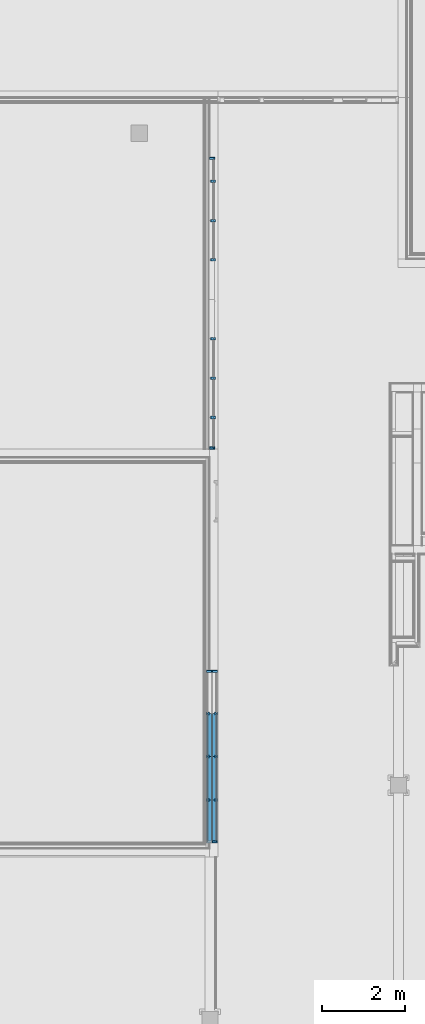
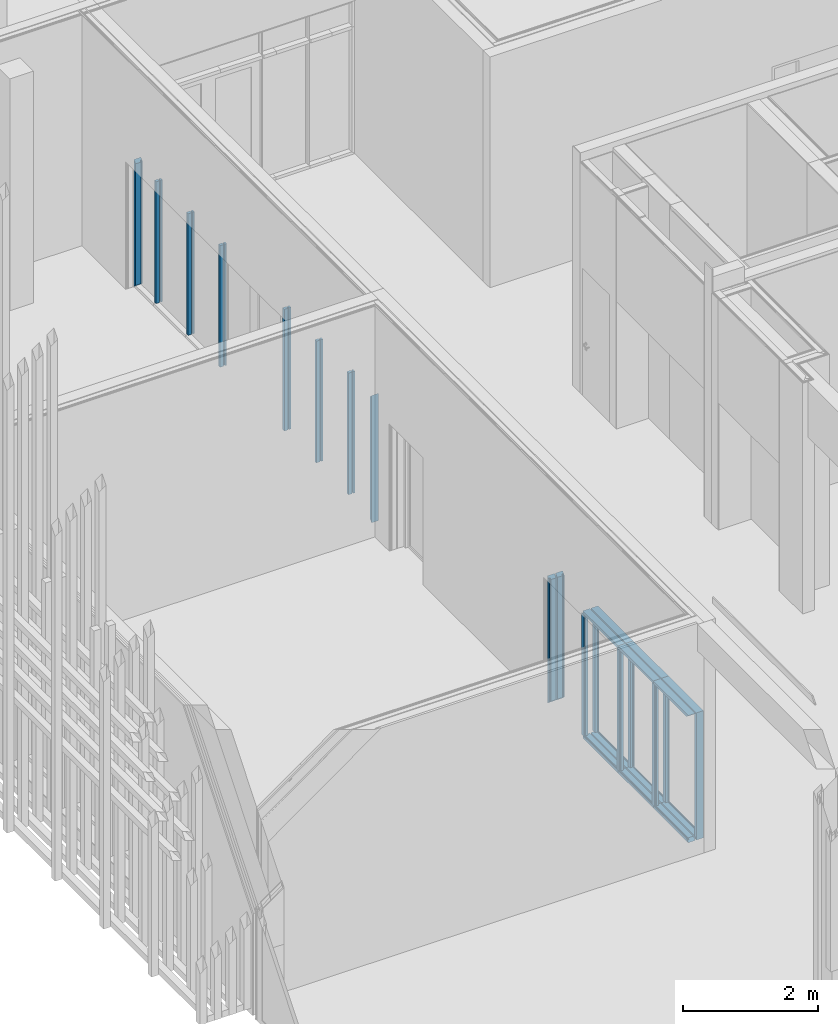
# One storey, part 28 of 260: 29 members, 3 elements without a shape of their own.
"""IFC2X3 building model written with IfcOpenShell, lengths in millimetres."""

from ifc_helpers import new_model, entity, si_unit, converted_unit, derived_unit, money_unit, direction, frame, origin_with_axes, place, context, subcontext, project, spatial, faceted_brep, source, transform, mapped, material, type_object, element, aggregate, save


model = new_model("IFC2X3")

# Units and contexts
model_context = context("Model", 3, precision=0.01, world=origin_with_axes(), true_north=direction((0.0, 1.0)))
body_context = subcontext(model_context, "Body", "Model", "MODEL_VIEW")
ifc_project = project(units=[si_unit("LENGTHUNIT", "METRE", prefix="MILLI"), si_unit("AREAUNIT", "SQUARE_METRE"), si_unit("VOLUMEUNIT", "CUBIC_METRE"), converted_unit("PLANEANGLEUNIT", "DEGREE", entity("IfcPlaneAngleMeasure", 0.0174532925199), si_unit("PLANEANGLEUNIT", "RADIAN"), dimensions=[0, 0, 0, 0, 0, 0, 0]), money_unit("EUR"), converted_unit("TIMEUNIT", "Year", entity("IfcTimeMeasure", 31556926.0), si_unit("TIMEUNIT", "SECOND"), dimensions=[0, 0, 1, 0, 0, 0, 0]), si_unit("MASSUNIT", "GRAM", prefix="KILO"), si_unit("THERMODYNAMICTEMPERATUREUNIT", "DEGREE_CELSIUS"), si_unit("LUMINOUSINTENSITYUNIT", "LUMEN"), si_unit("ENERGYUNIT", "JOULE", prefix="MEGA"), derived_unit("THERMALCONDUCTANCEUNIT", [(si_unit("POWERUNIT", "WATT"), 1), (si_unit("LENGTHUNIT", "METRE"), -1), (si_unit("THERMODYNAMICTEMPERATUREUNIT", "KELVIN"), -1)]), derived_unit("SPECIFICHEATCAPACITYUNIT", [(si_unit("ENERGYUNIT", "JOULE"), 1), (si_unit("MASSUNIT", "GRAM", prefix="KILO"), -1), (si_unit("THERMODYNAMICTEMPERATUREUNIT", "KELVIN"), -1)]), derived_unit("MASSDENSITYUNIT", [(si_unit("MASSUNIT", "GRAM", prefix="KILO"), 1), (si_unit("VOLUMEUNIT", "CUBIC_METRE"), -1)])], contexts=[model_context])

# Site, building, storey
site_placement = place(None, origin_with_axes())
site = spatial("IfcSite", under=ifc_project, at=site_placement, Name="Kolde pst 67a", CompositionType="ELEMENT")
building_placement = place(site_placement, origin_with_axes())
building = spatial("IfcBuilding", under=site, at=building_placement, Name="Riigigümnaasium", CompositionType="ELEMENT")
storey_placement = place(building_placement, origin_with_axes())
storey = spatial("IfcBuildingStorey", under=building, at=storey_placement, Name="1. korrus", CompositionType="ELEMENT", Elevation=0.0)

# Curtain wall, members
curtain_wall_type = type_object("IfcCurtainWallType", Name="Curtain Wall Type", PredefinedType="NOTDEFINED")
curtain_wall_1_placement = place(storey_placement, frame((31790.0027795, 49434.9164747, -6.11802017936e-05), z_axis=(0.0, 0.0, 1.0), x_axis=(1.0, 0.0, 0.0)))
curtain_wall_1 = element("IfcCurtainWall", 1, at=curtain_wall_1_placement, inside=storey, type_object=curtain_wall_type, Name="KLAASSEIN")
ifc_material_1 = material(Name="_GENEERILINE MATERJAL")
member_type_1 = type_object("IfcMemberType", Name="Mullion Frame 50 x 110", PredefinedType="MEMBER")
shared_shape_1 = source(origin_with_axes(), body_context, "Body", "Brep", [
    faceted_brep([(-5.0, -10.0, 2250.00010133), (-25.0, -10.0, 2250.00010133), (-25.0, -70.0, 2250.00010133), (25.0, -70.0, 2250.00010133), (25.0, -10.0, 2250.00010133), (5.0, -10.0, 2250.00010133), (5.0, 10.0, 2250.00010133), (25.0, 10.0, 2250.00010133), (25.0, 40.0, 2250.00010133), (-25.0, 40.0, 2250.00010133), (-25.0, 10.0, 2250.00010133), (-5.0, 10.0, 2250.00010133), (-5.0, -10.0, 50.0), (-25.0, -10.0, 50.0), (-25.0, -70.0, 50.0), (25.0, -70.0, 50.0), (25.0, -10.0, 50.0), (5.0, -10.0, 50.0), (5.0, 10.0, 50.0), (25.0, 10.0, 50.0), (25.0, 40.0, 50.0), (-25.0, 40.0, 50.0), (-25.0, 10.0, 50.0), (-5.0, 10.0, 50.0)], [[[0, 1, 2, 3, 4, 5, 6, 7, 8, 9, 10, 11]], [[1, 0, 12, 13]], [[1, 13, 14, 2]], [[2, 14, 15, 3]], [[4, 3, 15, 16]], [[4, 16, 17, 5]], [[5, 17, 18, 6]], [[7, 6, 18, 19]], [[19, 20, 8, 7]], [[8, 20, 21, 9]], [[22, 10, 9, 21]], [[11, 10, 22, 23]], [[0, 11, 23, 12]], [[23, 22, 21, 20, 19, 18, 17, 16, 15, 14, 13, 12]]]),
])
member_1_placement = place(curtain_wall_1_placement, frame((0.0, -475.0, 1.68701678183e-05), z_axis=(0.0, 0.0, 1.0), x_axis=(0.0, -1.0, 0.0)))
member_1 = element("IfcMember", 2, at=member_1_placement, type_object=member_type_1, material=ifc_material_1, Name="RF RAAM VERT-288", ObjectType="MEMBER", context=body_context, shape_type="MappedRepresentation", body=[
    mapped(shared_shape_1, transform((0.0, 0.0, 0.0))),
])
member_2_placement = place(curtain_wall_1_placement, frame((0.0, 475.0, 1.68701678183e-05), z_axis=(0.0, 0.0, 1.0), x_axis=(0.0, -1.0, 0.0)))
member_2 = element("IfcMember", 3, at=member_2_placement, type_object=member_type_1, material=ifc_material_1, Name="RF RAAM VERT-289", ObjectType="MEMBER", context=body_context, shape_type="MappedRepresentation", body=[
    mapped(shared_shape_1, transform((0.0, 0.0, 0.0))),
])
member_3_placement = place(curtain_wall_1_placement, frame((0.0, 1425.0, 1.68701678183e-05), z_axis=(0.0, 0.0, 1.0), x_axis=(0.0, -1.0, 0.0)))
member_3 = element("IfcMember", 4, at=member_3_placement, type_object=member_type_1, material=ifc_material_1, Name="RF RAAM VERT-290", ObjectType="MEMBER", context=body_context, shape_type="MappedRepresentation", body=[
    mapped(shared_shape_1, transform((0.0, 0.0, 0.0))),
])
member_4_placement = place(curtain_wall_1_placement, frame((0.0, 3325.0, 1.68701678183e-05), z_axis=(0.0, 0.0, 1.0), x_axis=(0.0, -1.0, 0.0)))
member_4 = element("IfcMember", 5, at=member_4_placement, type_object=member_type_1, material=ifc_material_1, Name="RF RAAM VERT-292", ObjectType="MEMBER", context=body_context, shape_type="MappedRepresentation", body=[
    mapped(shared_shape_1, transform((0.0, 0.0, 0.0))),
])
member_5_placement = place(curtain_wall_1_placement, frame((0.0, 4275.0, 1.68701678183e-05), z_axis=(0.0, 0.0, 1.0), x_axis=(0.0, -1.0, 0.0)))
member_5 = element("IfcMember", 6, at=member_5_placement, type_object=member_type_1, material=ifc_material_1, Name="RF RAAM VERT-293", ObjectType="MEMBER", context=body_context, shape_type="MappedRepresentation", body=[
    mapped(shared_shape_1, transform((0.0, 0.0, 0.0))),
])
member_6_placement = place(curtain_wall_1_placement, frame((0.0, 5225.0, 1.68701678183e-05), z_axis=(0.0, 0.0, 1.0), x_axis=(0.0, -1.0, 0.0)))
member_6 = element("IfcMember", 7, at=member_6_placement, type_object=member_type_1, material=ifc_material_1, Name="RF RAAM VERT-294", ObjectType="MEMBER", context=body_context, shape_type="MappedRepresentation", body=[
    mapped(shared_shape_1, transform((0.0, 0.0, 0.0))),
])
member_type_2 = type_object("IfcMemberType", Name="Boundary Frame 50 x 120", PredefinedType="MEMBER")
shared_shape_2 = source(origin_with_axes(), body_context, "Body", "Brep", [
    faceted_brep([(30.0, -10.0, 2270.00010133), (30.0, 10.0, 2270.00010133), (50.0, 10.0, 2250.00010133), (50.0, 20.0, 2250.00010133), (0.0, 20.0, 2300.00010133), (0.0, -100.0, 2300.00010133), (50.0, -100.0, 2250.00010133), (50.0, -10.0, 2250.00010133), (30.0, -10.0, 30.0), (30.0, 10.0, 30.0), (50.0, 10.0, 50.0), (50.0, 20.0, 50.0), (0.0, 20.0, 0.0), (0.0, -100.0, 0.0), (50.0, -100.0, 50.0), (50.0, -10.0, 50.0)], [[[0, 1, 2, 3, 4, 5, 6, 7]], [[1, 0, 8, 9]], [[10, 2, 1, 9]], [[2, 10, 11, 3]], [[4, 3, 11, 12]], [[5, 4, 12, 13]], [[6, 5, 13, 14]], [[15, 7, 6, 14]], [[0, 7, 15, 8]], [[8, 15, 14, 13, 12, 11, 10, 9]]]),
])
member_7_placement = place(curtain_wall_1_placement, frame((0.0, -1234.93591572, 2300.0001182), z_axis=(0.0, 0.0, -1.0), x_axis=(0.0, 1.0, 0.0)))
member_7 = element("IfcMember", 8, at=member_7_placement, type_object=member_type_2, material=ifc_material_1, Name="RF RAAM SERV-132", ObjectType="MEMBER", context=body_context, shape_type="MappedRepresentation", body=[
    mapped(shared_shape_2, transform((0.0, 0.0, 0.0))),
])
member_8_placement = place(curtain_wall_1_placement, frame((0.0, 5804.83268854, 1.68701678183e-05), z_axis=(0.0, 0.0, 1.0), x_axis=(0.0, -1.0, 0.0)))
member_8 = element("IfcMember", 9, at=member_8_placement, type_object=member_type_2, material=ifc_material_1, Name="RF RAAM SERV-141", ObjectType="MEMBER", context=body_context, shape_type="MappedRepresentation", body=[
    mapped(shared_shape_2, transform((0.0, 0.0, 0.0))),
])
aggregate(curtain_wall_1, [member_1, member_2, member_3, member_4, member_5, member_6, member_7, member_8])

# Curtain wall, member
curtain_wall_2_placement = place(storey_placement, frame((31858.898599, 40257.4808267, -3.66549283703e-05), z_axis=(0.0, 0.0, 1.0), x_axis=(1.0, 0.0, 0.0)))
curtain_wall_2 = element("IfcCurtainWall", 10, at=curtain_wall_2_placement, inside=storey, type_object=curtain_wall_type, Name="KLAASSEIN")
ifc_material_2 = material(Name="_METALL - alumiinium")
shared_shape_3 = source(origin_with_axes(), body_context, "Body", "Brep", [
    faceted_brep([(-30.0, -10.0, 1033.99967243), (-50.0, -10.0, 1033.99967243), (-50.0, -100.0, 1033.99967243), (0.0, -100.0, 1033.99967243), (0.0, 20.0, 1033.99967243), (-50.0, 20.0, 1033.99967243), (-50.0, 10.0, 1033.99967243), (-30.0, 10.0, 1033.99967243), (-30.0, -10.0, 30.0), (-50.0, -10.0, 50.0), (-50.0, -100.0, 50.0), (0.0, -100.0, 0.0), (0.0, 20.0, 0.0), (-50.0, 20.0, 50.0), (-50.0, 10.0, 50.0), (-30.0, 10.0, 30.0)], [[[0, 1, 2, 3, 4, 5, 6, 7]], [[0, 8, 9, 1]], [[9, 10, 2, 1]], [[2, 10, 11, 3]], [[3, 11, 12, 4]], [[4, 12, 13, 5]], [[6, 5, 13, 14]], [[14, 15, 7, 6]], [[7, 15, 8, 0]], [[8, 15, 14, 13, 12, 11, 10, 9]]]),
])
member_9_placement = place(curtain_wall_2_placement, frame((0.0, -1556.49969515, 2300.00020406), z_axis=(0.0, 1.0, 0.0), x_axis=(0.0, 0.0, 1.0)))
member_9 = element("IfcMember", 11, at=member_9_placement, type_object=member_type_2, material=ifc_material_2, Name="RF RAAM SERV-195", ObjectType="MEMBER", context=body_context, shape_type="MappedRepresentation", body=[
    mapped(shared_shape_3, transform((0.0, 0.0, 0.0))),
])

curtain_wall_3_placement = place(storey_placement, frame((31639.955711, 40257.4808267, -4.08979272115e-05), z_axis=(0.0, 0.0, 1.0), x_axis=(1.0, 0.0, 0.0)))
curtain_wall_3 = element("IfcCurtainWall", 12, at=curtain_wall_3_placement, inside=storey, type_object=curtain_wall_type, Name="KLAASSEIN")
member_10_placement = place(curtain_wall_3_placement, frame((0.0, -1556.49967243, 0.0), z_axis=(0.0, 1.0, 0.0), x_axis=(0.0, 0.0, 1.0)))
member_10 = element("IfcMember", 13, at=member_10_placement, type_object=member_type_2, material=ifc_material_2, Name="RF RAAM SERV-115", ObjectType="MEMBER", context=body_context, shape_type="MappedRepresentation", body=[
    mapped(shared_shape_3, transform((0.0, 0.0, 0.0), x_axis=(-1.0, 0.0, 0.0), y_axis=(0.0, -1.0, 0.0), z_axis=(0.0, 0.0, 1.0))),
])

# Member
shared_shape_4 = source(origin_with_axes(), body_context, "Body", "Brep", [
    faceted_brep([(30.0, -10.0, 1045.0), (30.0, 10.0, 1045.0), (50.0, 10.0, 1045.0), (50.0, 20.0, 1045.0), (0.0, 20.0, 1045.0), (0.0, -100.0, 1045.0), (50.0, -100.0, 1045.0), (50.0, -10.0, 1045.0), (30.0, -10.0, 0.0), (30.0, 10.0, 0.0), (50.0, 10.0, 0.0), (50.0, 20.0, 0.0), (0.0, 20.0, 0.0), (0.0, -100.0, 0.0), (50.0, -100.0, 0.0), (50.0, -10.0, 0.0)], [[[0, 1, 2, 3, 4, 5, 6, 7]], [[1, 0, 8, 9]], [[10, 2, 1, 9]], [[2, 10, 11, 3]], [[12, 4, 3, 11]], [[13, 5, 4, 12]], [[14, 6, 5, 13]], [[15, 7, 6, 14]], [[0, 7, 15, 8]], [[8, 15, 14, 13, 12, 11, 10, 9]]]),
])
member_11_placement = place(curtain_wall_2_placement, frame((0.0, -522.5, 0.0), z_axis=(0.0, 1.0, 0.0), x_axis=(0.0, 0.0, 1.0)))
member_11 = element("IfcMember", 14, at=member_11_placement, type_object=member_type_2, material=ifc_material_2, Name="RF RAAM SERV-198", ObjectType="MEMBER", context=body_context, shape_type="MappedRepresentation", body=[
    mapped(shared_shape_4, transform((0.0, 0.0, 0.0))),
])

member_12_placement = place(curtain_wall_2_placement, frame((0.0, 522.5, 0.0), z_axis=(0.0, 1.0, 0.0), x_axis=(0.0, 0.0, 1.0)))
member_12 = element("IfcMember", 15, at=member_12_placement, type_object=member_type_2, material=ifc_material_2, Name="RF RAAM SERV-199", ObjectType="MEMBER", context=body_context, shape_type="MappedRepresentation", body=[
    mapped(shared_shape_4, transform((0.0, 0.0, 0.0))),
])

member_13_placement = place(curtain_wall_3_placement, frame((0.0, -522.5, 2300.00021133), z_axis=(0.0, 1.0, 0.0), x_axis=(0.0, 0.0, 1.0)))
member_13 = element("IfcMember", 16, at=member_13_placement, type_object=member_type_2, material=ifc_material_2, Name="RF RAAM SERV-122", ObjectType="MEMBER", context=body_context, shape_type="MappedRepresentation", body=[
    mapped(shared_shape_4, transform((0.0, 0.0, 0.0), x_axis=(-1.0, 0.0, 0.0), y_axis=(0.0, -1.0, 0.0), z_axis=(0.0, 0.0, 1.0))),
])

member_14_placement = place(curtain_wall_3_placement, frame((0.0, 522.5, 2300.00021133), z_axis=(0.0, 1.0, 0.0), x_axis=(0.0, 0.0, 1.0)))
member_14 = element("IfcMember", 17, at=member_14_placement, type_object=member_type_2, material=ifc_material_2, Name="RF RAAM SERV-121", ObjectType="MEMBER", context=body_context, shape_type="MappedRepresentation", body=[
    mapped(shared_shape_4, transform((0.0, 0.0, 0.0), x_axis=(-1.0, 0.0, 0.0), y_axis=(0.0, -1.0, 0.0), z_axis=(0.0, 0.0, 1.0))),
])

shared_shape_5 = source(origin_with_axes(), body_context, "Body", "Brep", [
    faceted_brep([(-30.0, -10.0, 1045.0), (-50.0, -10.0, 1045.0), (-50.0, -100.0, 1045.0), (0.0, -100.0, 1045.0), (0.0, 20.0, 1045.0), (-50.0, 20.0, 1045.0), (-50.0, 10.0, 1045.0), (-30.0, 10.0, 1045.0), (-30.0, -10.0, 0.0), (-50.0, -10.0, 0.0), (-50.0, -100.0, 0.0), (0.0, -100.0, 0.0), (0.0, 20.0, 0.0), (-50.0, 20.0, 0.0), (-50.0, 10.0, 0.0), (-30.0, 10.0, 0.0)], [[[0, 1, 2, 3, 4, 5, 6, 7]], [[0, 8, 9, 1]], [[9, 10, 2, 1]], [[10, 11, 3, 2]], [[11, 12, 4, 3]], [[12, 13, 5, 4]], [[6, 5, 13, 14]], [[14, 15, 7, 6]], [[7, 15, 8, 0]], [[8, 15, 14, 13, 12, 11, 10, 9]]]),
])
member_15_placement = place(curtain_wall_2_placement, frame((0.0, -522.5, 2300.00020406), z_axis=(0.0, 1.0, 0.0), x_axis=(0.0, 0.0, 1.0)))
member_15 = element("IfcMember", 18, at=member_15_placement, type_object=member_type_2, material=ifc_material_2, Name="RF RAAM SERV-204", ObjectType="MEMBER", context=body_context, shape_type="MappedRepresentation", body=[
    mapped(shared_shape_5, transform((0.0, 0.0, 0.0))),
])

member_16_placement = place(curtain_wall_2_placement, frame((0.0, 522.5, 2300.00020406), z_axis=(0.0, 1.0, 0.0), x_axis=(0.0, 0.0, 1.0)))
member_16 = element("IfcMember", 19, at=member_16_placement, type_object=member_type_2, material=ifc_material_2, Name="RF RAAM SERV-203", ObjectType="MEMBER", context=body_context, shape_type="MappedRepresentation", body=[
    mapped(shared_shape_5, transform((0.0, 0.0, 0.0))),
])

member_17_placement = place(curtain_wall_3_placement, frame((0.0, -522.5, 0.0), z_axis=(0.0, 1.0, 0.0), x_axis=(0.0, 0.0, 1.0)))
member_17 = element("IfcMember", 20, at=member_17_placement, type_object=member_type_2, material=ifc_material_2, Name="RF RAAM SERV-116", ObjectType="MEMBER", context=body_context, shape_type="MappedRepresentation", body=[
    mapped(shared_shape_5, transform((0.0, 0.0, 0.0), x_axis=(-1.0, 0.0, 0.0), y_axis=(0.0, -1.0, 0.0), z_axis=(0.0, 0.0, 1.0))),
])

member_18_placement = place(curtain_wall_3_placement, frame((0.0, 522.5, 0.0), z_axis=(0.0, 1.0, 0.0), x_axis=(0.0, 0.0, 1.0)))
member_18 = element("IfcMember", 21, at=member_18_placement, type_object=member_type_2, material=ifc_material_2, Name="RF RAAM SERV-117", ObjectType="MEMBER", context=body_context, shape_type="MappedRepresentation", body=[
    mapped(shared_shape_5, transform((0.0, 0.0, 0.0), x_axis=(-1.0, 0.0, 0.0), y_axis=(0.0, -1.0, 0.0), z_axis=(0.0, 0.0, 1.0))),
])

member_type_3 = type_object("IfcMemberType", Name="Mullion Frame 70 x 70", PredefinedType="MEMBER")
shared_shape_6 = source(origin_with_axes(), body_context, "Body", "Brep", [
    faceted_brep([(-5.0, -10.0, 2250.00020406), (-35.0, -10.0, 2250.00020406), (-35.0, -50.0, 2250.00020406), (35.0, -50.0, 2250.00020406), (35.0, -10.0, 2250.00020406), (5.0, -10.0, 2250.00020406), (5.0, 10.0, 2250.00020406), (35.0, 10.0, 2250.00020406), (35.0, 20.0, 2250.00020406), (-35.0, 20.0, 2250.00020406), (-35.0, 10.0, 2250.00020406), (-5.0, 10.0, 2250.00020406), (-5.0, -10.0, 50.0), (-35.0, -10.0, 50.0), (-35.0, -50.0, 50.0), (35.0, -50.0, 50.0), (35.0, -10.0, 50.0), (5.0, -10.0, 50.0), (5.0, 10.0, 50.0), (35.0, 10.0, 50.0), (35.0, 20.0, 50.0), (-35.0, 20.0, 50.0), (-35.0, 10.0, 50.0), (-5.0, 10.0, 50.0)], [[[0, 1, 2, 3, 4, 5, 6, 7, 8, 9, 10, 11]], [[1, 0, 12, 13]], [[1, 13, 14, 2]], [[2, 14, 15, 3]], [[4, 3, 15, 16]], [[4, 16, 17, 5]], [[5, 17, 18, 6]], [[7, 6, 18, 19]], [[19, 20, 8, 7]], [[8, 20, 21, 9]], [[22, 10, 9, 21]], [[11, 10, 22, 23]], [[0, 11, 23, 12]], [[23, 22, 21, 20, 19, 18, 17, 16, 15, 14, 13, 12]]]),
])
member_19_placement = place(curtain_wall_2_placement, frame((0.0, -522.5, 0.0), z_axis=(0.0, 0.0, 1.0), x_axis=(0.0, -1.0, 0.0)))
member_19 = element("IfcMember", 22, at=member_19_placement, type_object=member_type_3, material=ifc_material_2, Name="RF RAAM VERT-299", ObjectType="MEMBER", context=body_context, shape_type="MappedRepresentation", body=[
    mapped(shared_shape_6, transform((0.0, 0.0, 0.0))),
])

member_20_placement = place(curtain_wall_2_placement, frame((0.0, 522.5, 0.0), z_axis=(0.0, 0.0, 1.0), x_axis=(0.0, -1.0, 0.0)))
member_20 = element("IfcMember", 23, at=member_20_placement, type_object=member_type_3, material=ifc_material_2, Name="RF RAAM VERT-300", ObjectType="MEMBER", context=body_context, shape_type="MappedRepresentation", body=[
    mapped(shared_shape_6, transform((0.0, 0.0, 0.0))),
])

member_21_placement = place(curtain_wall_2_placement, frame((0.0, 1567.5, 0.0), z_axis=(0.0, 0.0, 1.0), x_axis=(0.0, -1.0, 0.0)))
member_21 = element("IfcMember", 24, at=member_21_placement, type_object=member_type_3, material=ifc_material_2, Name="RF RAAM VERT-311", ObjectType="MEMBER", context=body_context, shape_type="MappedRepresentation", body=[
    mapped(shared_shape_6, transform((0.0, 0.0, 0.0))),
])

shared_shape_7 = source(origin_with_axes(), body_context, "Body", "Brep", [
    faceted_brep([(30.0, -10.0, 2270.00020406), (30.0, 10.0, 2270.00020406), (50.0, 10.0, 2250.00020406), (50.0, 20.0, 2250.00020406), (0.0, 20.0, 2300.00020406), (0.0, -100.0, 2300.00020406), (50.0, -100.0, 2250.00020406), (50.0, -10.0, 2250.00020406), (30.0, -10.0, 30.0), (30.0, 10.0, 30.0), (50.0, 10.0, 50.0), (50.0, 20.0, 50.0), (0.0, 20.0, 0.0), (0.0, -100.0, 0.0), (50.0, -100.0, 50.0), (50.0, -10.0, 50.0)], [[[0, 1, 2, 3, 4, 5, 6, 7]], [[1, 0, 8, 9]], [[10, 2, 1, 9]], [[2, 10, 11, 3]], [[4, 3, 11, 12]], [[5, 4, 12, 13]], [[6, 5, 13, 14]], [[15, 7, 6, 14]], [[0, 7, 15, 8]], [[8, 15, 14, 13, 12, 11, 10, 9]]]),
])
member_22_placement = place(curtain_wall_2_placement, frame((0.0, 2612.5, 0.0), z_axis=(0.0, 0.0, 1.0), x_axis=(0.0, -1.0, 0.0)))
member_22 = element("IfcMember", 25, at=member_22_placement, type_object=member_type_2, material=ifc_material_2, Name="RF RAAM SERV-201", ObjectType="MEMBER", context=body_context, shape_type="MappedRepresentation", body=[
    mapped(shared_shape_7, transform((0.0, 0.0, 0.0))),
])

member_23_placement = place(curtain_wall_2_placement, frame((0.0, -1556.49969515, 2300.00020406), z_axis=(0.0, 0.0, -1.0), x_axis=(0.0, 1.0, 0.0)))
member_23 = element("IfcMember", 26, at=member_23_placement, type_object=member_type_2, material=ifc_material_2, Name="RF RAAM SERV-196", ObjectType="MEMBER", context=body_context, shape_type="MappedRepresentation", body=[
    mapped(shared_shape_7, transform((0.0, 0.0, 0.0))),
])

shared_shape_8 = source(origin_with_axes(), body_context, "Body", "Brep", [
    faceted_brep([(30.0, -10.0, 1033.99967243), (30.0, 10.0, 1033.99967243), (50.0, 10.0, 1033.99967243), (50.0, 20.0, 1033.99967243), (0.0, 20.0, 1033.99967243), (0.0, -100.0, 1033.99967243), (50.0, -100.0, 1033.99967243), (50.0, -10.0, 1033.99967243), (30.0, -10.0, 30.0), (30.0, 10.0, 30.0), (50.0, 10.0, 50.0), (50.0, 20.0, 50.0), (0.0, 20.0, 0.0), (0.0, -100.0, 0.0), (50.0, -100.0, 50.0), (50.0, -10.0, 50.0)], [[[0, 1, 2, 3, 4, 5, 6, 7]], [[1, 0, 8, 9]], [[10, 2, 1, 9]], [[2, 10, 11, 3]], [[4, 3, 11, 12]], [[5, 4, 12, 13]], [[6, 5, 13, 14]], [[15, 7, 6, 14]], [[0, 7, 15, 8]], [[8, 15, 14, 13, 12, 11, 10, 9]]]),
])
member_24_placement = place(curtain_wall_2_placement, frame((0.0, -1556.49969515, 0.0), z_axis=(0.0, 1.0, 0.0), x_axis=(0.0, 0.0, 1.0)))
member_24 = element("IfcMember", 27, at=member_24_placement, type_object=member_type_2, material=ifc_material_2, Name="RF RAAM SERV-197", ObjectType="MEMBER", context=body_context, shape_type="MappedRepresentation", body=[
    mapped(shared_shape_8, transform((0.0, 0.0, 0.0))),
])

aggregate(curtain_wall_2, [member_9, member_11, member_15, member_19, member_20, member_16, member_12, member_21, member_22, member_24, member_23])

member_25_placement = place(curtain_wall_3_placement, frame((0.0, -1556.49967243, 2300.00021133), z_axis=(0.0, 1.0, 0.0), x_axis=(0.0, 0.0, 1.0)))
member_25 = element("IfcMember", 28, at=member_25_placement, type_object=member_type_2, material=ifc_material_2, Name="RF RAAM SERV-113", ObjectType="MEMBER", context=body_context, shape_type="MappedRepresentation", body=[
    mapped(shared_shape_8, transform((0.0, 0.0, 0.0), x_axis=(-1.0, 0.0, 0.0), y_axis=(0.0, -1.0, 0.0), z_axis=(0.0, 0.0, 1.0))),
])

shared_shape_9 = source(origin_with_axes(), body_context, "Body", "Brep", [
    faceted_brep([(5.0, -10.0, 2250.00021133), (5.0, 10.0, 2250.00021133), (35.0, 10.0, 2250.00021133), (35.0, 20.0, 2250.00021133), (-35.0, 20.0, 2250.00021133), (-35.0, 10.0, 2250.00021133), (-5.0, 10.0, 2250.00021133), (-5.0, -10.0, 2250.00021133), (-35.0, -10.0, 2250.00021133), (-35.0, -50.0, 2250.00021133), (35.0, -50.0, 2250.00021133), (35.0, -10.0, 2250.00021133), (5.0, -10.0, 50.0), (5.0, 10.0, 50.0), (35.0, 10.0, 50.0), (35.0, 20.0, 50.0), (-35.0, 20.0, 50.0), (-35.0, 10.0, 50.0), (-5.0, 10.0, 50.0), (-5.0, -10.0, 50.0), (-35.0, -10.0, 50.0), (-35.0, -50.0, 50.0), (35.0, -50.0, 50.0), (35.0, -10.0, 50.0)], [[[0, 1, 2, 3, 4, 5, 6, 7, 8, 9, 10, 11]], [[0, 12, 13, 1]], [[1, 13, 14, 2]], [[14, 15, 3, 2]], [[4, 3, 15, 16]], [[17, 5, 4, 16]], [[5, 17, 18, 6]], [[7, 6, 18, 19]], [[8, 7, 19, 20]], [[8, 20, 21, 9]], [[10, 9, 21, 22]], [[11, 10, 22, 23]], [[11, 23, 12, 0]], [[13, 12, 23, 22, 21, 20, 19, 18, 17, 16, 15, 14]]]),
])
member_26_placement = place(curtain_wall_3_placement, frame((0.0, -522.5, 0.0), z_axis=(0.0, 0.0, 1.0), x_axis=(0.0, -1.0, 0.0)))
member_26 = element("IfcMember", 29, at=member_26_placement, type_object=member_type_3, material=ifc_material_2, Name="RF RAAM VERT-299", ObjectType="MEMBER", context=body_context, shape_type="MappedRepresentation", body=[
    mapped(shared_shape_9, transform((0.0, 0.0, 0.0), x_axis=(-1.0, 0.0, 0.0), y_axis=(0.0, -1.0, 0.0), z_axis=(0.0, 0.0, 1.0))),
])

member_27_placement = place(curtain_wall_3_placement, frame((0.0, 522.5, 0.0), z_axis=(0.0, 0.0, 1.0), x_axis=(0.0, -1.0, 0.0)))
member_27 = element("IfcMember", 30, at=member_27_placement, type_object=member_type_3, material=ifc_material_2, Name="RF RAAM VERT-300", ObjectType="MEMBER", context=body_context, shape_type="MappedRepresentation", body=[
    mapped(shared_shape_9, transform((0.0, 0.0, 0.0), x_axis=(-1.0, 0.0, 0.0), y_axis=(0.0, -1.0, 0.0), z_axis=(0.0, 0.0, 1.0))),
])

member_28_placement = place(curtain_wall_3_placement, frame((0.0, 1567.5, 0.0), z_axis=(0.0, 0.0, 1.0), x_axis=(0.0, -1.0, 0.0)))
member_28 = element("IfcMember", 31, at=member_28_placement, type_object=member_type_3, material=ifc_material_2, Name="RF RAAM VERT-311", ObjectType="MEMBER", context=body_context, shape_type="MappedRepresentation", body=[
    mapped(shared_shape_9, transform((0.0, 0.0, 0.0), x_axis=(-1.0, 0.0, 0.0), y_axis=(0.0, -1.0, 0.0), z_axis=(0.0, 0.0, 1.0))),
])

shared_shape_10 = source(origin_with_axes(), body_context, "Body", "Brep", [
    faceted_brep([(-30.0, -10.0, 2270.00021133), (-50.0, -10.0, 2250.00021133), (-50.0, -100.0, 2250.00021133), (0.0, -100.0, 2300.00021133), (0.0, 20.0, 2300.00021133), (-50.0, 20.0, 2250.00021133), (-50.0, 10.0, 2250.00021133), (-30.0, 10.0, 2270.00021133), (-30.0, -10.0, 30.0), (-50.0, -10.0, 50.0), (-50.0, -100.0, 50.0), (0.0, -100.0, 0.0), (0.0, 20.0, 0.0), (-50.0, 20.0, 50.0), (-50.0, 10.0, 50.0), (-30.0, 10.0, 30.0)], [[[0, 1, 2, 3, 4, 5, 6, 7]], [[0, 8, 9, 1]], [[9, 10, 2, 1]], [[2, 10, 11, 3]], [[3, 11, 12, 4]], [[4, 12, 13, 5]], [[6, 5, 13, 14]], [[14, 15, 7, 6]], [[7, 15, 8, 0]], [[8, 15, 14, 13, 12, 11, 10, 9]]]),
])
member_29_placement = place(curtain_wall_3_placement, frame((0.0, 2612.1772915, 0.0), z_axis=(0.0, 0.0, 1.0), x_axis=(0.0, -1.0, 0.0)))
member_29 = element("IfcMember", 32, at=member_29_placement, type_object=member_type_2, material=ifc_material_2, Name="RF RAAM SERV-119", ObjectType="MEMBER", context=body_context, shape_type="MappedRepresentation", body=[
    mapped(shared_shape_10, transform((0.0, 0.0, 0.0), x_axis=(-1.0, 0.0, 0.0), y_axis=(0.0, -1.0, 0.0), z_axis=(0.0, 0.0, 1.0))),
])

aggregate(curtain_wall_3, [member_25, member_17, member_13, member_26, member_14, member_27, member_18, member_28, member_29, member_10])

save(model, "model.ifc")
